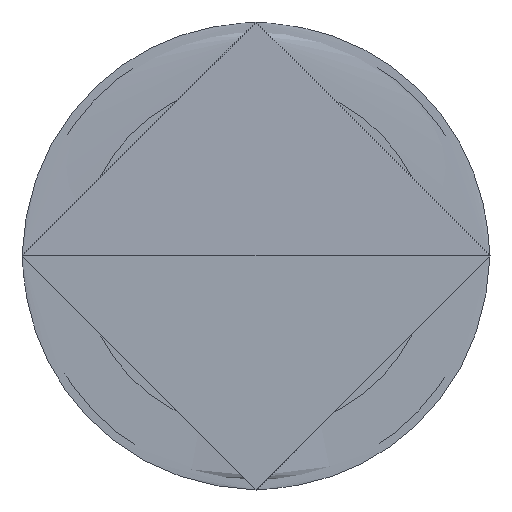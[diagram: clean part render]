
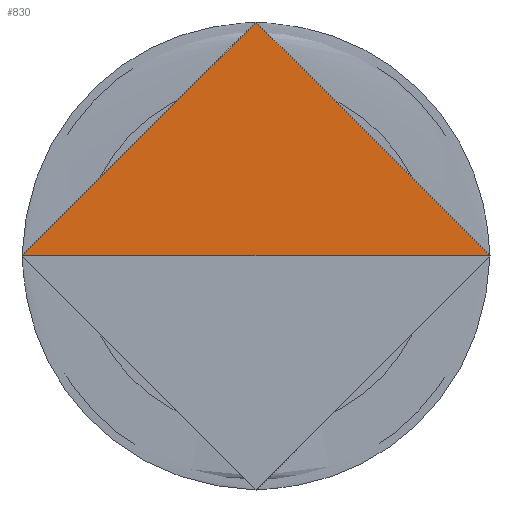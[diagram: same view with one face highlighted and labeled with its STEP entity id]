
A CAD part, front view. The second image highlights one B-rep face of the part: STEP entity #830.
In plain terms, the highlighted free-form (B-spline) face has degree [2, 2] with [5, 9] control points.
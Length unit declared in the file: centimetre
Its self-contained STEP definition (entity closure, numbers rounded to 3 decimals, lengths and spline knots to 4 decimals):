
#90=(
BOUNDED_SURFACE()
B_SPLINE_SURFACE(2,2,((#18793,#18794,#18795,#18796,#18797,#18798,#18799,
#18800,#18801),(#18802,#18803,#18804,#18805,#18806,#18807,#18808,#18809,
#18810),(#18811,#18812,#18813,#18814,#18815,#18816,#18817,#18818,#18819),
(#18820,#18821,#18822,#18823,#18824,#18825,#18826,#18827,#18828),(#18829,
#18830,#18831,#18832,#18833,#18834,#18835,#18836,#18837)),.UNSPECIFIED.,
 .F.,.F.,.F.)
B_SPLINE_SURFACE_WITH_KNOTS((3,2,3),(3,2,2,2,3),(785.3982,1178.0972,
1570.7963),(0.,1.5708,3.1416,4.7124,
6.2832),.UNSPECIFIED.)
GEOMETRIC_REPRESENTATION_ITEM()
RATIONAL_B_SPLINE_SURFACE(((1.,0.707,1.,0.707,1.,
0.707,1.,0.707,1.),(0.707,0.5,0.707,
0.5,0.707,0.5,0.707,0.5,0.707),(1.,
0.707,1.,0.707,1.,0.707,1.,0.707,
1.),(0.707,0.5,0.707,0.5,0.707,0.5,
0.707,0.5,0.707),(1.,0.707,1.,0.707,
1.,0.707,1.,0.707,1.)))
REPRESENTATION_ITEM('')
SURFACE()
);
#830=ADVANCED_FACE('',(#1441),#90,.T.);
#1441=FACE_OUTER_BOUND('',#2157,.T.);
#2157=EDGE_LOOP('',(#5306,#5307,#5308,#5309,#5310));
#5306=ORIENTED_EDGE('',*,*,#6956,.T.);
#5307=ORIENTED_EDGE('',*,*,#6929,.T.);
#5308=ORIENTED_EDGE('',*,*,#6960,.F.);
#5309=ORIENTED_EDGE('',*,*,#6957,.F.);
#5310=ORIENTED_EDGE('',*,*,#6955,.F.);
#6929=EDGE_CURVE('',#8978,#8977,#10183,.T.);
#6955=EDGE_CURVE('',#8996,#8997,#10204,.T.);
#6956=EDGE_CURVE('',#8996,#8978,#10205,.T.);
#6957=EDGE_CURVE('',#8997,#8998,#10206,.T.);
#6960=EDGE_CURVE('',#8998,#8977,#10208,.T.);
#8977=VERTEX_POINT('',#18909);
#8978=VERTEX_POINT('',#18910);
#8996=VERTEX_POINT('',#18928);
#8997=VERTEX_POINT('',#18929);
#8998=VERTEX_POINT('',#18930);
#10183=(
BOUNDED_CURVE()
B_SPLINE_CURVE(2,(#18961,#18962,#18963),.UNSPECIFIED.,.F.,.F.)
B_SPLINE_CURVE_WITH_KNOTS((3,3),(1.5708,3.1416),
 .UNSPECIFIED.)
CURVE()
GEOMETRIC_REPRESENTATION_ITEM()
RATIONAL_B_SPLINE_CURVE((1.,0.707,1.))
REPRESENTATION_ITEM('')
);
#10204=(
BOUNDED_CURVE()
B_SPLINE_CURVE(2,(#19058,#19059,#19060),.UNSPECIFIED.,.F.,.F.)
B_SPLINE_CURVE_WITH_KNOTS((3,3),(1.5708,3.1416),
 .UNSPECIFIED.)
CURVE()
GEOMETRIC_REPRESENTATION_ITEM()
RATIONAL_B_SPLINE_CURVE((1.,0.707,1.))
REPRESENTATION_ITEM('')
);
#10205=(
BOUNDED_CURVE()
B_SPLINE_CURVE(2,(#19061,#19062,#19063,#19064,#19065),.UNSPECIFIED.,.F.,
 .F.)
B_SPLINE_CURVE_WITH_KNOTS((3,2,3),(1564.5131,1955.6414,2346.7697),
 .UNSPECIFIED.)
CURVE()
GEOMETRIC_REPRESENTATION_ITEM()
RATIONAL_B_SPLINE_CURVE((1.,0.707,1.,0.707,1.))
REPRESENTATION_ITEM('')
);
#10206=(
BOUNDED_CURVE()
B_SPLINE_CURVE(2,(#19066,#19067,#19068),.UNSPECIFIED.,.F.,.F.)
B_SPLINE_CURVE_WITH_KNOTS((3,3),(1178.0972,1570.7963),
 .UNSPECIFIED.)
CURVE()
GEOMETRIC_REPRESENTATION_ITEM()
RATIONAL_B_SPLINE_CURVE((1.,0.707,1.))
REPRESENTATION_ITEM('')
);
#10208=(
BOUNDED_CURVE()
B_SPLINE_CURVE(2,(#19074,#19075,#19076),.UNSPECIFIED.,.F.,.F.)
B_SPLINE_CURVE_WITH_KNOTS((3,3),(1570.7963,1963.4954),
 .UNSPECIFIED.)
CURVE()
GEOMETRIC_REPRESENTATION_ITEM()
RATIONAL_B_SPLINE_CURVE((1.,0.707,1.))
REPRESENTATION_ITEM('')
);
#18793=CARTESIAN_POINT('',(395.6223,-560.1319,-48.4451));
#18794=CARTESIAN_POINT('',(395.6223,-561.1319,-48.4451));
#18795=CARTESIAN_POINT('',(394.6223,-561.1319,-48.4451));
#18796=CARTESIAN_POINT('',(393.6223,-561.1319,-48.4451));
#18797=CARTESIAN_POINT('',(393.6223,-560.1319,-48.4451));
#18798=CARTESIAN_POINT('',(393.6223,-559.1319,-48.4451));
#18799=CARTESIAN_POINT('',(394.6223,-559.1319,-48.4451));
#18800=CARTESIAN_POINT('',(395.6223,-559.1319,-48.4451));
#18801=CARTESIAN_POINT('',(395.6223,-560.1319,-48.4451));
#18802=CARTESIAN_POINT('',(395.6223,-560.1319,199.5549));
#18803=CARTESIAN_POINT('',(395.6223,-561.1319,199.5549));
#18804=CARTESIAN_POINT('',(394.6223,-561.1319,200.5549));
#18805=CARTESIAN_POINT('',(393.6223,-561.1319,201.5549));
#18806=CARTESIAN_POINT('',(393.6223,-560.1319,201.5549));
#18807=CARTESIAN_POINT('',(393.6223,-559.1319,201.5549));
#18808=CARTESIAN_POINT('',(394.6223,-559.1319,200.5549));
#18809=CARTESIAN_POINT('',(395.6223,-559.1319,199.5549));
#18810=CARTESIAN_POINT('',(395.6223,-560.1319,199.5549));
#18811=CARTESIAN_POINT('',(643.6223,-560.1319,199.5549));
#18812=CARTESIAN_POINT('',(643.6223,-561.1319,199.5549));
#18813=CARTESIAN_POINT('',(643.6223,-561.1319,200.5549));
#18814=CARTESIAN_POINT('',(643.6223,-561.1319,201.5549));
#18815=CARTESIAN_POINT('',(643.6223,-560.1319,201.5549));
#18816=CARTESIAN_POINT('',(643.6223,-559.1319,201.5549));
#18817=CARTESIAN_POINT('',(643.6223,-559.1319,200.5549));
#18818=CARTESIAN_POINT('',(643.6223,-559.1319,199.5549));
#18819=CARTESIAN_POINT('',(643.6223,-560.1319,199.5549));
#18820=CARTESIAN_POINT('',(891.6223,-560.1319,199.5549));
#18821=CARTESIAN_POINT('',(891.6223,-561.1319,199.5549));
#18822=CARTESIAN_POINT('',(892.6223,-561.1319,200.5549));
#18823=CARTESIAN_POINT('',(893.6223,-561.1319,201.5549));
#18824=CARTESIAN_POINT('',(893.6223,-560.1319,201.5549));
#18825=CARTESIAN_POINT('',(893.6223,-559.1319,201.5549));
#18826=CARTESIAN_POINT('',(892.6223,-559.1319,200.5549));
#18827=CARTESIAN_POINT('',(891.6223,-559.1319,199.5549));
#18828=CARTESIAN_POINT('',(891.6223,-560.1319,199.5549));
#18829=CARTESIAN_POINT('',(891.6223,-560.1319,-48.4451));
#18830=CARTESIAN_POINT('',(891.6223,-561.1319,-48.4451));
#18831=CARTESIAN_POINT('',(892.6223,-561.1319,-48.4451));
#18832=CARTESIAN_POINT('',(893.6223,-561.1319,-48.4451));
#18833=CARTESIAN_POINT('',(893.6223,-560.1319,-48.4451));
#18834=CARTESIAN_POINT('',(893.6223,-559.1319,-48.4451));
#18835=CARTESIAN_POINT('',(892.6223,-559.1319,-48.4451));
#18836=CARTESIAN_POINT('',(891.6223,-559.1319,-48.4451));
#18837=CARTESIAN_POINT('',(891.6223,-560.1319,-48.4451));
#18909=CARTESIAN_POINT('',(893.6223,-560.1319,-48.4451));
#18910=CARTESIAN_POINT('',(892.6223,-561.1319,-48.4451));
#18928=CARTESIAN_POINT('',(394.6223,-561.1319,-48.4451));
#18929=CARTESIAN_POINT('',(393.6223,-560.1319,-48.4451));
#18930=CARTESIAN_POINT('',(643.6223,-560.1319,201.5549));
#18961=CARTESIAN_POINT('',(892.6223,-561.1319,-48.4451));
#18962=CARTESIAN_POINT('',(893.6223,-561.1319,-48.4451));
#18963=CARTESIAN_POINT('',(893.6223,-560.1319,-48.4451));
#19058=CARTESIAN_POINT('',(394.6223,-561.1319,-48.4451));
#19059=CARTESIAN_POINT('',(393.6223,-561.1319,-48.4451));
#19060=CARTESIAN_POINT('',(393.6223,-560.1319,-48.4451));
#19061=CARTESIAN_POINT('',(394.6223,-561.1319,-48.4451));
#19062=CARTESIAN_POINT('',(394.6223,-561.1319,200.5549));
#19063=CARTESIAN_POINT('',(643.6223,-561.1319,200.5549));
#19064=CARTESIAN_POINT('',(892.6223,-561.1319,200.5549));
#19065=CARTESIAN_POINT('',(892.6223,-561.1319,-48.4451));
#19066=CARTESIAN_POINT('',(393.6223,-560.1319,-48.4451));
#19067=CARTESIAN_POINT('',(393.6223,-560.1319,201.5549));
#19068=CARTESIAN_POINT('',(643.6223,-560.1319,201.5549));
#19074=CARTESIAN_POINT('',(643.6223,-560.1319,201.5549));
#19075=CARTESIAN_POINT('',(893.6223,-560.1319,201.5549));
#19076=CARTESIAN_POINT('',(893.6223,-560.1319,-48.4451));
